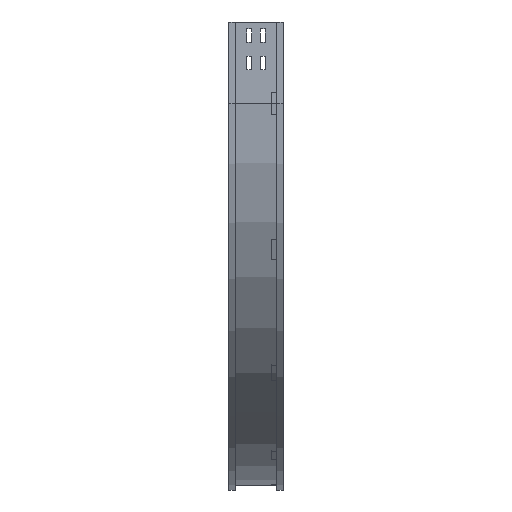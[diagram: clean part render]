
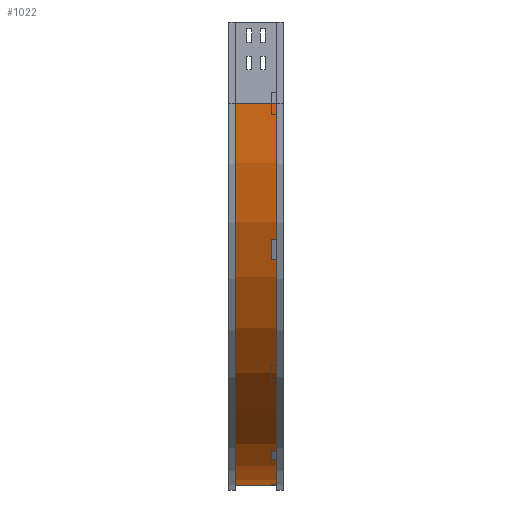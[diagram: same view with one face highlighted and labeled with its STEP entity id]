
A CAD part, left-side view. The second image highlights one B-rep face of the part: STEP entity #1022.
In plain terms, the highlighted cylindrical face has radius 700 mm (diameter 1400 mm), a partial arc.
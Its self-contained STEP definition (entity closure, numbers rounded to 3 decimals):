
#149 = EDGE_CURVE ( 'NONE', #3795, #4397, #3179, .T. ) ;
#250 = DIRECTION ( 'NONE',  ( 0., -1., 0. ) ) ;
#258 = CIRCLE ( 'NONE', #2753, 700. ) ;
#304 = DIRECTION ( 'NONE',  ( -1., 0., 0. ) ) ;
#428 = CARTESIAN_POINT ( 'NONE',  ( 709., 12., -850. ) ) ;
#438 = DIRECTION ( 'NONE',  ( 0., 0., -1. ) ) ;
#490 = DIRECTION ( 'NONE',  ( 0., -1., 0. ) ) ;
#737 = DIRECTION ( 'NONE',  ( 0., -1., 0. ) ) ;
#811 = DIRECTION ( 'NONE',  ( 0., -1., 0. ) ) ;
#826 = EDGE_CURVE ( 'NONE', #892, #3795, #258, .T. ) ;
#892 = VERTEX_POINT ( 'NONE', #2050 ) ;
#975 = EDGE_CURVE ( 'NONE', #892, #1153, #1786, .T. ) ;
#1022 = ADVANCED_FACE ( 'NONE', ( #2868 ), #2807, .T. ) ;
#1115 = ORIENTED_EDGE ( 'NONE', *, *, #149, .T. ) ;
#1153 = VERTEX_POINT ( 'NONE', #2633 ) ;
#1172 = DIRECTION ( 'NONE',  ( 0., -1., 0. ) ) ;
#1337 = CARTESIAN_POINT ( 'NONE',  ( 709., 88., -150. ) ) ;
#1562 = DIRECTION ( 'NONE',  ( -1., 0., 0. ) ) ;
#1573 = CARTESIAN_POINT ( 'NONE',  ( 709., 12., -850. ) ) ;
#1786 = LINE ( 'NONE', #2477, #3544 ) ;
#1878 = ORIENTED_EDGE ( 'NONE', *, *, #826, .T. ) ;
#2016 = ORIENTED_EDGE ( 'NONE', *, *, #975, .F. ) ;
#2050 = CARTESIAN_POINT ( 'NONE',  ( 9., 88., -150. ) ) ;
#2129 = CARTESIAN_POINT ( 'NONE',  ( 709., 88., -850. ) ) ;
#2387 = EDGE_LOOP ( 'NONE', ( #3291, #2016, #1878, #1115 ) ) ;
#2477 = CARTESIAN_POINT ( 'NONE',  ( 9., 12., -150. ) ) ;
#2633 = CARTESIAN_POINT ( 'NONE',  ( 9., 12., -150. ) ) ;
#2753 = AXIS2_PLACEMENT_3D ( 'NONE', #1337, #250, #304 ) ;
#2807 = CYLINDRICAL_SURFACE ( 'NONE', #3332, 700. ) ;
#2868 = FACE_OUTER_BOUND ( 'NONE', #2387, .T. ) ;
#3115 = CIRCLE ( 'NONE', #3329, 700. ) ;
#3148 = CARTESIAN_POINT ( 'NONE',  ( 709., 0., -150. ) ) ;
#3179 = LINE ( 'NONE', #428, #3906 ) ;
#3291 = ORIENTED_EDGE ( 'NONE', *, *, #3419, .F. ) ;
#3329 = AXIS2_PLACEMENT_3D ( 'NONE', #3912, #490, #1562 ) ;
#3332 = AXIS2_PLACEMENT_3D ( 'NONE', #3148, #737, #438 ) ;
#3419 = EDGE_CURVE ( 'NONE', #1153, #4397, #3115, .T. ) ;
#3544 = VECTOR ( 'NONE', #1172, 1000. ) ;
#3795 = VERTEX_POINT ( 'NONE', #2129 ) ;
#3906 = VECTOR ( 'NONE', #811, 1000. ) ;
#3912 = CARTESIAN_POINT ( 'NONE',  ( 709., 12., -150. ) ) ;
#4397 = VERTEX_POINT ( 'NONE', #1573 ) ;
